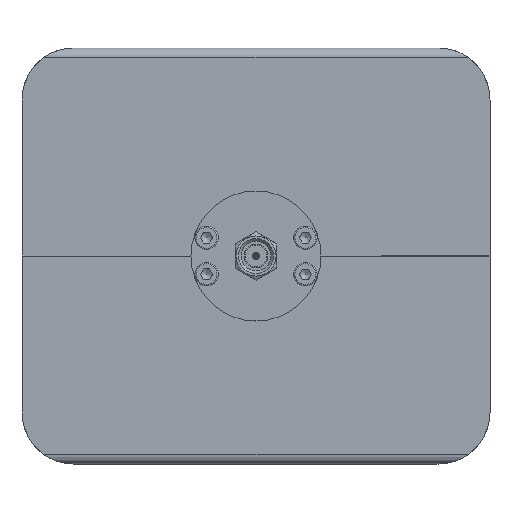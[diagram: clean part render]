
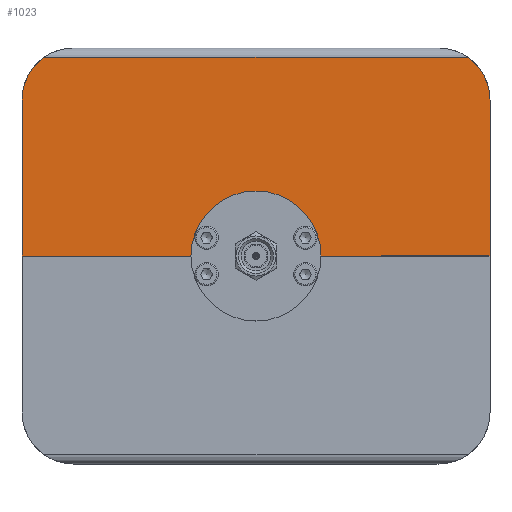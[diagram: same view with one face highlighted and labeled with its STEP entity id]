
A CAD part, left-side view. The second image highlights one B-rep face of the part: STEP entity #1023.
In plain terms, the highlighted planar face has unit normal (-1, 0, 0).
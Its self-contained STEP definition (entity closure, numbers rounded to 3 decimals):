
#1023=ADVANCED_FACE('',(#4439,#4441,#4443),#4445,.T.);
#4439=FACE_BOUND('',#4440,.T.);
#4440=EDGE_LOOP('',(#7423,#7424,#7425,#7426,#7427,#7428,#7429,#7430,#7431,#7432,
#7433,#7434,#7435,#7436));
#4441=FACE_BOUND('',#4442,.T.);
#4442=EDGE_LOOP('',(#7437));
#4443=FACE_BOUND('',#4444,.T.);
#4444=EDGE_LOOP('',(#7438));
#4445=PLANE('',#4446);
#4446=AXIS2_PLACEMENT_3D('',#4447,#4448,#4449);
#4447=CARTESIAN_POINT('',(-42.,0.,-45.));
#4448=DIRECTION('',(-1.,0.,0.));
#4449=DIRECTION('',(0.,-1.,0.));
#7423=ORIENTED_EDGE('',*,*,#9299,.T.);
#7424=ORIENTED_EDGE('',*,*,#9300,.T.);
#7425=ORIENTED_EDGE('',*,*,#9301,.T.);
#7426=ORIENTED_EDGE('',*,*,#9302,.T.);
#7427=ORIENTED_EDGE('',*,*,#9303,.T.);
#7428=ORIENTED_EDGE('',*,*,#9289,.F.);
#7429=ORIENTED_EDGE('',*,*,#9304,.T.);
#7430=ORIENTED_EDGE('',*,*,#9305,.T.);
#7431=ORIENTED_EDGE('',*,*,#9306,.T.);
#7432=ORIENTED_EDGE('',*,*,#9307,.T.);
#7433=ORIENTED_EDGE('',*,*,#9225,.F.);
#7434=ORIENTED_EDGE('',*,*,#9287,.F.);
#7435=ORIENTED_EDGE('',*,*,#9308,.T.);
#7436=ORIENTED_EDGE('',*,*,#9309,.T.);
#7437=ORIENTED_EDGE('',*,*,#9310,.T.);
#7438=ORIENTED_EDGE('',*,*,#9311,.T.);
#9225=EDGE_CURVE('',#10166,#10168,#10169,.T.);
#9287=EDGE_CURVE('',#10289,#10166,#10291,.T.);
#9289=EDGE_CURVE('',#10292,#10294,#10295,.T.);
#9299=EDGE_CURVE('',#10313,#10314,#10315,.F.);
#9300=EDGE_CURVE('',#10314,#10316,#10317,.F.);
#9301=EDGE_CURVE('',#10316,#10318,#10319,.F.);
#9302=EDGE_CURVE('',#10318,#10320,#10321,.F.);
#9303=EDGE_CURVE('',#10320,#10294,#10322,.F.);
#9304=EDGE_CURVE('',#10292,#10323,#10324,.T.);
#9305=EDGE_CURVE('',#10323,#10325,#10326,.T.);
#9306=EDGE_CURVE('',#10325,#10327,#10328,.T.);
#9307=EDGE_CURVE('',#10327,#10168,#10329,.T.);
#9308=EDGE_CURVE('',#10289,#10330,#10331,.F.);
#9309=EDGE_CURVE('',#10330,#10313,#10332,.F.);
#9310=EDGE_CURVE('',#10333,#10333,#10334,.F.);
#9311=EDGE_CURVE('',#10335,#10335,#10336,.F.);
#10166=VERTEX_POINT('',#11794);
#10168=VERTEX_POINT('',#11798);
#10169=LINE('',#11799,#11800);
#10289=VERTEX_POINT('',#12064);
#10291=LINE('',#12068,#12069);
#10292=VERTEX_POINT('',#12071);
#10294=VERTEX_POINT('',#12075);
#10295=LINE('',#12076,#12077);
#10313=VERTEX_POINT('',#12122);
#10314=VERTEX_POINT('',#12123);
#10315=LINE('',#12124,#12125);
#10316=VERTEX_POINT('',#12127);
#10317=LINE('',#12128,#12129);
#10318=VERTEX_POINT('',#12131);
#10319=LINE('',#12132,#12133);
#10320=VERTEX_POINT('',#12135);
#10321=LINE('',#12136,#12137);
#10322=LINE('',#12139,#12140);
#10323=VERTEX_POINT('',#12142);
#10324=LINE('',#12143,#12144);
#10325=VERTEX_POINT('',#12146);
#10326=CIRCLE('',#12147,10.);
#10327=VERTEX_POINT('',#12151);
#10328=LINE('',#12152,#12153);
#10329=CIRCLE('',#12155,10.);
#10330=VERTEX_POINT('',#12159);
#10331=LINE('',#12160,#12161);
#10332=LINE('',#12163,#12164);
#10333=VERTEX_POINT('',#12166);
#10334=CIRCLE('',#12167,1.006);
#10335=VERTEX_POINT('',#12171);
#10336=CIRCLE('',#12172,1.006);
#11794=CARTESIAN_POINT('',(-42.,0.,45.));
#11798=CARTESIAN_POINT('',(-42.,-30.,45.));
#11799=CARTESIAN_POINT('',(-42.,0.,45.));
#11800=VECTOR('',#11801,1.);
#11801=DIRECTION('',(0.,-1.,0.));
#12064=CARTESIAN_POINT('',(-42.,0.,3.25));
#12068=CARTESIAN_POINT('',(-42.,0.,3.25));
#12069=VECTOR('',#12070,1.);
#12070=DIRECTION('',(0.,0.,1.));
#12071=CARTESIAN_POINT('',(-42.,0.,-45.));
#12075=CARTESIAN_POINT('',(-42.,0.,-3.25));
#12076=CARTESIAN_POINT('',(-42.,0.,-45.));
#12077=VECTOR('',#12078,1.);
#12078=DIRECTION('',(0.,0.,1.));
#12122=CARTESIAN_POINT('',(-42.,-0.75,1.85));
#12123=CARTESIAN_POINT('',(-42.,-1.15,1.85));
#12124=CARTESIAN_POINT('',(-42.,-1.15,1.85));
#12125=VECTOR('',#12126,1.);
#12126=DIRECTION('',(0.,1.,0.));
#12127=CARTESIAN_POINT('',(-42.,-1.15,-1.85));
#12128=CARTESIAN_POINT('',(-42.,-1.15,-1.85));
#12129=VECTOR('',#12130,1.);
#12130=DIRECTION('',(0.,0.,1.));
#12131=CARTESIAN_POINT('',(-42.,-0.75,-1.85));
#12132=CARTESIAN_POINT('',(-42.,-0.75,-1.85));
#12133=VECTOR('',#12134,1.);
#12134=DIRECTION('',(0.,-1.,0.));
#12135=CARTESIAN_POINT('',(-42.,-0.75,-3.25));
#12136=CARTESIAN_POINT('',(-42.,-0.75,-3.25));
#12137=VECTOR('',#12138,1.);
#12138=DIRECTION('',(0.,0.,1.));
#12139=CARTESIAN_POINT('',(-42.,0.,-3.25));
#12140=VECTOR('',#12141,1.);
#12141=DIRECTION('',(0.,-1.,0.));
#12142=CARTESIAN_POINT('',(-42.,-30.,-45.));
#12143=CARTESIAN_POINT('',(-42.,0.,-45.));
#12144=VECTOR('',#12145,1.);
#12145=DIRECTION('',(0.,-1.,0.));
#12146=CARTESIAN_POINT('',(-42.,-38.25,-40.651));
#12147=AXIS2_PLACEMENT_3D('',#12148,#12149,#12150);
#12148=CARTESIAN_POINT('',(-42.,-30.,-35.));
#12149=DIRECTION('',(-1.,0.,0.));
#12150=DIRECTION('',(0.,0.,-1.));
#12151=CARTESIAN_POINT('',(-42.,-38.25,40.651));
#12152=CARTESIAN_POINT('',(-42.,-38.25,-40.651));
#12153=VECTOR('',#12154,1.);
#12154=DIRECTION('',(0.,0.,1.));
#12155=AXIS2_PLACEMENT_3D('',#12156,#12157,#12158);
#12156=CARTESIAN_POINT('',(-42.,-30.,35.));
#12157=DIRECTION('',(-1.,0.,0.));
#12158=DIRECTION('',(0.,-0.825,0.565));
#12159=CARTESIAN_POINT('',(-42.,-0.75,3.25));
#12160=CARTESIAN_POINT('',(-42.,-0.75,3.25));
#12161=VECTOR('',#12162,1.);
#12162=DIRECTION('',(0.,1.,0.));
#12163=CARTESIAN_POINT('',(-42.,-0.75,1.85));
#12164=VECTOR('',#12165,1.);
#12165=DIRECTION('',(0.,0.,1.));
#12166=CARTESIAN_POINT('',(-42.,-2.494,-9.5));
#12167=AXIS2_PLACEMENT_3D('',#12168,#12169,#12170);
#12168=CARTESIAN_POINT('',(-42.,-3.5,-9.5));
#12169=DIRECTION('',(-1.,0.,0.));
#12170=DIRECTION('',(0.,1.,0.));
#12171=CARTESIAN_POINT('',(-42.,-2.494,9.5));
#12172=AXIS2_PLACEMENT_3D('',#12173,#12174,#12175);
#12173=CARTESIAN_POINT('',(-42.,-3.5,9.5));
#12174=DIRECTION('',(-1.,0.,0.));
#12175=DIRECTION('',(0.,1.,0.));
